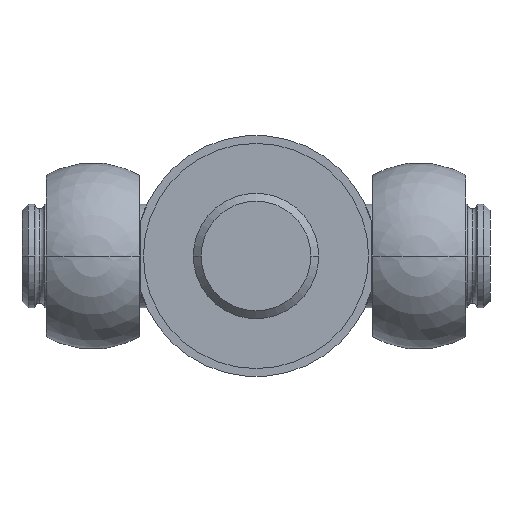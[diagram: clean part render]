
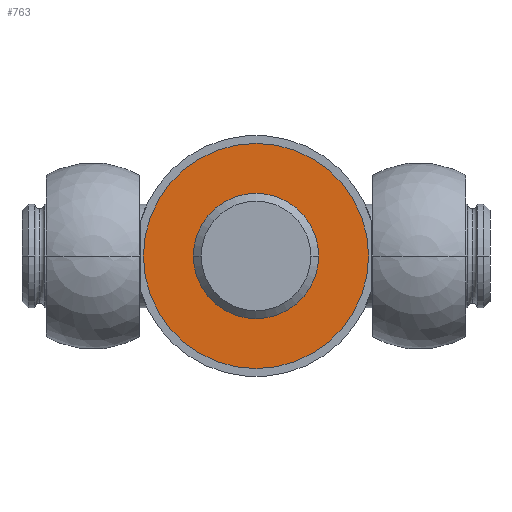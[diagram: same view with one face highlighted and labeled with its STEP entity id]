
A CAD part, front view. The second image highlights one B-rep face of the part: STEP entity #763.
In plain terms, the highlighted planar face has unit normal (0, -1, 0).
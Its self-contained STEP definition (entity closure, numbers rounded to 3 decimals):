
#423 = VERTEX_POINT( '', #1192 );
#427 = EDGE_CURVE( '', #423, #595, #1196, .T. );
#441 = EDGE_CURVE( '', #939, #503, #1210, .T. );
#503 = VERTEX_POINT( '', #1277 );
#595 = VERTEX_POINT( '', #1378 );
#763 = ADVANCED_FACE( '', ( #1565, #1566 ), #1567, .T. );
#793 = EDGE_CURVE( '', #503, #939, #1598, .T. );
#851 = EDGE_CURVE( '', #595, #423, #1660, .T. );
#939 = VERTEX_POINT( '', #1759 );
#1192 = CARTESIAN_POINT( '', ( -19.5, 0., 0. ) );
#1196 = CIRCLE( '', #2065, 19.5 );
#1210 = CIRCLE( '', #2085, 35. );
#1277 = CARTESIAN_POINT( '', ( 35., 0., 0. ) );
#1378 = CARTESIAN_POINT( '', ( 19.5, 0., 0. ) );
#1565 = FACE_OUTER_BOUND( '', #2581, .T. );
#1566 = FACE_BOUND( '', #2582, .T. );
#1567 = PLANE( '', #2583 );
#1598 = CIRCLE( '', #2624, 35. );
#1660 = CIRCLE( '', #2729, 19.5 );
#1759 = CARTESIAN_POINT( '', ( -35., 0., 0. ) );
#2065 = AXIS2_PLACEMENT_3D( '', #3308, #3309, #3310 );
#2085 = AXIS2_PLACEMENT_3D( '', #3321, #3322, #3323 );
#2581 = EDGE_LOOP( '', ( #3760, #3761 ) );
#2582 = EDGE_LOOP( '', ( #3762, #3763 ) );
#2583 = AXIS2_PLACEMENT_3D( '', #3764, #3765, #3766 );
#2624 = AXIS2_PLACEMENT_3D( '', #3787, #3788, #3789 );
#2729 = AXIS2_PLACEMENT_3D( '', #3845, #3846, #3847 );
#3308 = CARTESIAN_POINT( '', ( 0., 0., 0. ) );
#3309 = DIRECTION( '', ( 0., 1., 0. ) );
#3310 = DIRECTION( '', ( 1., 0., 0. ) );
#3321 = CARTESIAN_POINT( '', ( 0., 0., 0. ) );
#3322 = DIRECTION( '', ( 0., 1., 0. ) );
#3323 = DIRECTION( '', ( 1., 0., 0. ) );
#3760 = ORIENTED_EDGE( '', *, *, #793, .F. );
#3761 = ORIENTED_EDGE( '', *, *, #441, .F. );
#3762 = ORIENTED_EDGE( '', *, *, #851, .T. );
#3763 = ORIENTED_EDGE( '', *, *, #427, .T. );
#3764 = CARTESIAN_POINT( '', ( 27.25, 0., 0. ) );
#3765 = DIRECTION( '', ( 0., -1., 0. ) );
#3766 = DIRECTION( '', ( -1., 0., 0. ) );
#3787 = CARTESIAN_POINT( '', ( 0., 0., 0. ) );
#3788 = DIRECTION( '', ( 0., 1., 0. ) );
#3789 = DIRECTION( '', ( 1., 0., 0. ) );
#3845 = CARTESIAN_POINT( '', ( 0., 0., 0. ) );
#3846 = DIRECTION( '', ( 0., 1., 0. ) );
#3847 = DIRECTION( '', ( 1., 0., 0. ) );
